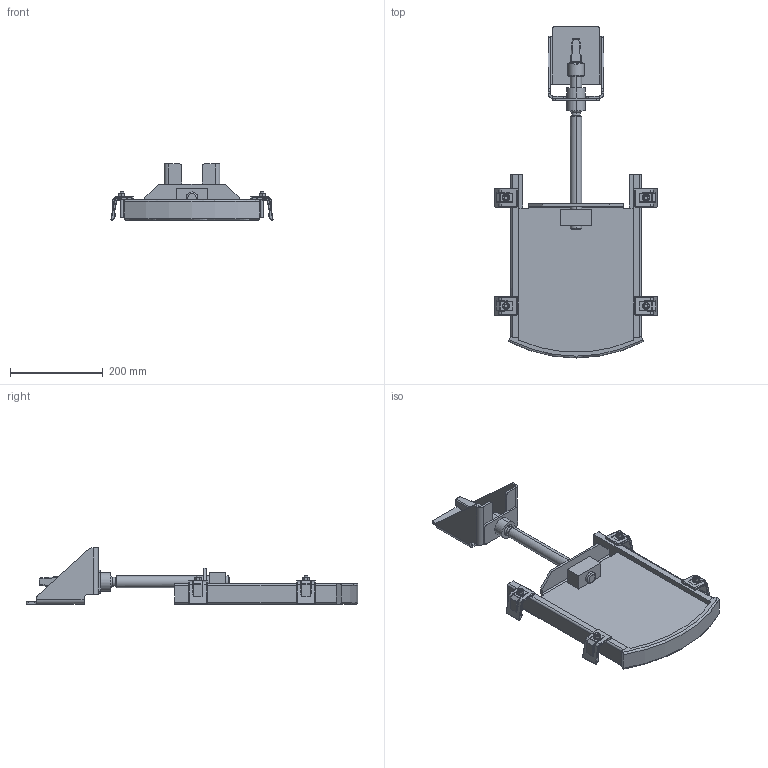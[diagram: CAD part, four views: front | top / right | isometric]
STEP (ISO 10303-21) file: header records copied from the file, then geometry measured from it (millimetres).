
FILE_DESCRIPTION (( 'STEP AP214' ), '1' );
FILE_NAME ('LW 200 gerad betoniert.STEP', '2022-05-18T13:20:29', ( '' ), ( '' ), 'SwSTEP 2.0', 'SolidWorks 2021', '' );
FILE_SCHEMA (( 'AUTOMOTIVE_DESIGN' ));
Length unit declared in the file: millimetre
Products named in the file (1): LW 200 gerad betoniert
Bounding box: 349.57 x 715 x 121 mm (x, y, z)
Volume: 1852235.6 mm3; surface area: 509200.8 mm2
Topology: 1 solids, 1 shells, 743 faces, 1736 edges, 972 vertices
Faces by surface type: cylinder 283, plane 232, sphere 60, cone 58, torus 56, bspline 54
Entity records: 30931 total; most frequent: CARTESIAN_POINT 6480, DIRECTION 3512, ORIENTED_EDGE 3352, EDGE_CURVE 1676, AXIS2_PLACEMENT_3D 1386, VERTEX_POINT 964, EDGE_LOOP 782, UNCERTAINTY_MEASURE_WITH_UNIT 746
